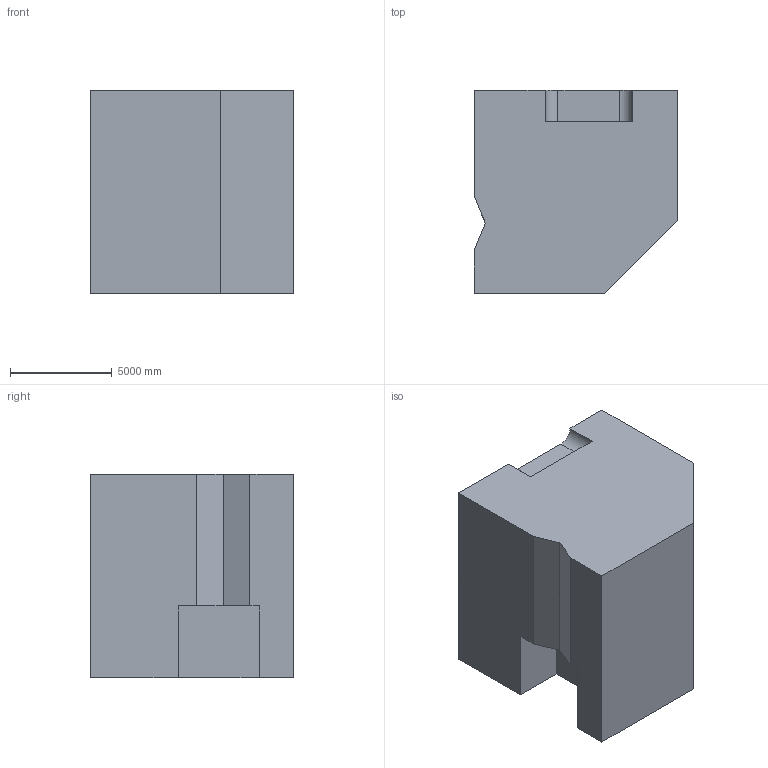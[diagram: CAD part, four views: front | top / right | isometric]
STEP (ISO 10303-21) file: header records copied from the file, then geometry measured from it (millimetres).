
FILE_DESCRIPTION (( 'STEP AP203' ), '1' );
FILE_NAME ('362.STEP', '2022-07-28T14:29:25', ( 'user' ), ( '' ), 'SwSTEP 2.0', 'SolidWorks 2021', '' );
FILE_SCHEMA (( 'CONFIG_CONTROL_DESIGN' ));
Length unit declared in the file: centimetre
Products named in the file (1): 362
Bounding box: 10000 x 10000 x 10000 mm (x, y, z)
Volume: 891139351466.1 mm3; surface area: 584829812.9 mm2
Topology: 1 solids, 1 shells, 18 faces, 48 edges, 32 vertices
Faces by surface type: plane 16, cylinder 2
Entity records: 633 total; most frequent: CARTESIAN_POINT 99, ORIENTED_EDGE 96, DIRECTION 90, EDGE_CURVE 48, VECTOR 44, LINE 44, VERTEX_POINT 32, AXIS2_PLACEMENT_3D 23
